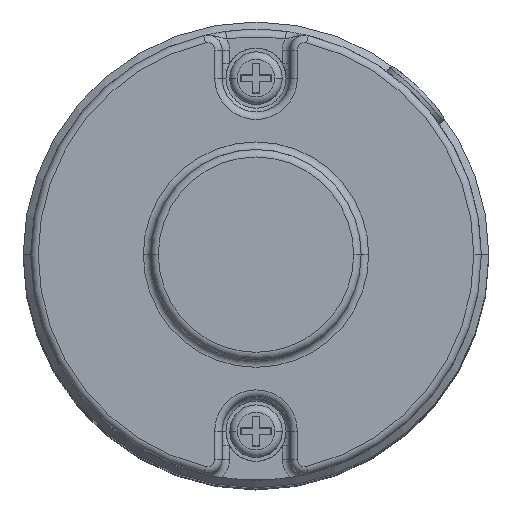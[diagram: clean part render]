
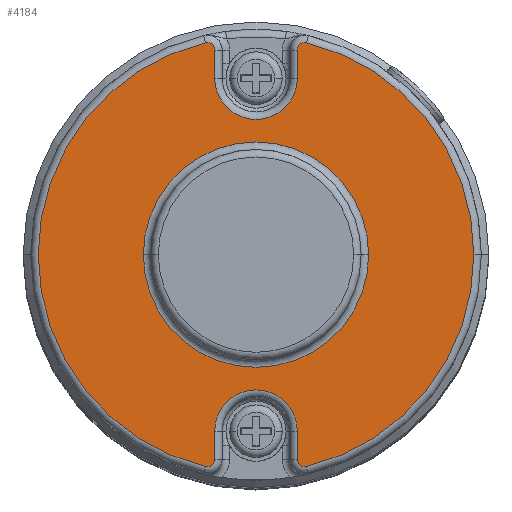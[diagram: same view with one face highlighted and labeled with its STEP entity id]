
A CAD part, top view. The second image highlights one B-rep face of the part: STEP entity #4184.
In plain terms, the highlighted planar face has unit normal (0, 0, 1).
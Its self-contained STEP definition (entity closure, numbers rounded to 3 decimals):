
#119 = CARTESIAN_POINT ( 'NONE',  ( 5.5, 23.5, 20.5 ) ) ;
#152 = EDGE_CURVE ( 'NONE', #6449, #7680, #8257, .T. ) ;
#169 = EDGE_LOOP ( 'NONE', ( #1189, #7729, #7235, #7921, #1282, #2745, #3732, #760, #5110, #5448, #1993, #4209, #1872 ) ) ;
#348 = LINE ( 'NONE', #4132, #3317 ) ;
#352 = DIRECTION ( 'NONE',  ( 1., 0., 0. ) ) ;
#553 = DIRECTION ( 'NONE',  ( 1., 0., 0. ) ) ;
#760 = ORIENTED_EDGE ( 'NONE', *, *, #7634, .T. ) ;
#911 = VERTEX_POINT ( 'NONE', #5743 ) ;
#916 = DIRECTION ( 'NONE',  ( 1., 0., 0. ) ) ;
#935 = VECTOR ( 'NONE', #2852, 1000. ) ;
#984 = DIRECTION ( 'NONE',  ( 1., 0., 0. ) ) ;
#1007 = EDGE_CURVE ( 'NONE', #7680, #6813, #4406, .T. ) ;
#1041 = CARTESIAN_POINT ( 'NONE',  ( 0., 23.5, 20.5 ) ) ;
#1066 = AXIS2_PLACEMENT_3D ( 'NONE', #2922, #4932, #352 ) ;
#1070 = EDGE_CURVE ( 'NONE', #7441, #5652, #7627, .T. ) ;
#1137 = VERTEX_POINT ( 'NONE', #3353 ) ;
#1163 = CARTESIAN_POINT ( 'NONE',  ( 6.732, 28.208, 20.5 ) ) ;
#1189 = ORIENTED_EDGE ( 'NONE', *, *, #1686, .T. ) ;
#1226 = CIRCLE ( 'NONE', #3629, 29. ) ;
#1235 = CARTESIAN_POINT ( 'NONE',  ( 0., 0., 20.5 ) ) ;
#1282 = ORIENTED_EDGE ( 'NONE', *, *, #152, .T. ) ;
#1424 = DIRECTION ( 'NONE',  ( 1., 0., 0. ) ) ;
#1549 = VERTEX_POINT ( 'NONE', #4294 ) ;
#1598 = VERTEX_POINT ( 'NONE', #6828 ) ;
#1654 = CIRCLE ( 'NONE', #2586, 5.5 ) ;
#1686 = EDGE_CURVE ( 'NONE', #1700, #8338, #8207, .T. ) ;
#1700 = VERTEX_POINT ( 'NONE', #6902 ) ;
#1718 = DIRECTION ( 'NONE',  ( 0., 0., -1. ) ) ;
#1726 = DIRECTION ( 'NONE',  ( 0., -1., 0. ) ) ;
#1872 = ORIENTED_EDGE ( 'NONE', *, *, #7222, .T. ) ;
#1993 = ORIENTED_EDGE ( 'NONE', *, *, #5206, .T. ) ;
#2007 = AXIS2_PLACEMENT_3D ( 'NONE', #1235, #3822, #6271 ) ;
#2019 = EDGE_CURVE ( 'NONE', #5189, #1137, #7312, .T. ) ;
#2037 = AXIS2_PLACEMENT_3D ( 'NONE', #1041, #1718, #6891 ) ;
#2191 = VERTEX_POINT ( 'NONE', #7438 ) ;
#2295 = DIRECTION ( 'NONE',  ( 0., 0., 1. ) ) ;
#2315 = FACE_BOUND ( 'NONE', #7333, .T. ) ;
#2586 = AXIS2_PLACEMENT_3D ( 'NONE', #6763, #4725, #916 ) ;
#2633 = EDGE_CURVE ( 'NONE', #911, #4073, #4002, .T. ) ;
#2745 = ORIENTED_EDGE ( 'NONE', *, *, #1007, .T. ) ;
#2746 = CARTESIAN_POINT ( 'NONE',  ( 29., 0., 20.5 ) ) ;
#2766 = VERTEX_POINT ( 'NONE', #4622 ) ;
#2852 = DIRECTION ( 'NONE',  ( 0., 1., 0. ) ) ;
#2886 = DIRECTION ( 'NONE',  ( 0., 0., 1. ) ) ;
#2922 = CARTESIAN_POINT ( 'NONE',  ( 0., 0., 20.5 ) ) ;
#2968 = CIRCLE ( 'NONE', #7671, 29. ) ;
#2983 = CIRCLE ( 'NONE', #7284, 1. ) ;
#3033 = DIRECTION ( 'NONE',  ( 0., 0., 1. ) ) ;
#3101 = EDGE_CURVE ( 'NONE', #5652, #7441, #3486, .T. ) ;
#3112 = AXIS2_PLACEMENT_3D ( 'NONE', #7662, #3033, #553 ) ;
#3317 = VECTOR ( 'NONE', #5389, 1000. ) ;
#3353 = CARTESIAN_POINT ( 'NONE',  ( -5.5, -23.5, 20.5 ) ) ;
#3486 = CIRCLE ( 'NONE', #2007, 15. ) ;
#3495 = AXIS2_PLACEMENT_3D ( 'NONE', #8093, #3568, #6135 ) ;
#3512 = CARTESIAN_POINT ( 'NONE',  ( 6.5, 27.235, 20.5 ) ) ;
#3568 = DIRECTION ( 'NONE',  ( 0., 0., 1. ) ) ;
#3629 = AXIS2_PLACEMENT_3D ( 'NONE', #6741, #8012, #4913 ) ;
#3732 = ORIENTED_EDGE ( 'NONE', *, *, #5471, .T. ) ;
#3738 = CARTESIAN_POINT ( 'NONE',  ( -5.5, -27.235, 20.5 ) ) ;
#3814 = CARTESIAN_POINT ( 'NONE',  ( 5.5, 23.5, 20.5 ) ) ;
#3822 = DIRECTION ( 'NONE',  ( 0., 0., -1. ) ) ;
#3855 = CARTESIAN_POINT ( 'NONE',  ( 5.5, -27.235, 20.5 ) ) ;
#3882 = CARTESIAN_POINT ( 'NONE',  ( -15., 0., 20.5 ) ) ;
#4002 = CIRCLE ( 'NONE', #1066, 29. ) ;
#4073 = VERTEX_POINT ( 'NONE', #2746 ) ;
#4132 = CARTESIAN_POINT ( 'NONE',  ( -5.5, 27.235, 20.5 ) ) ;
#4144 = CARTESIAN_POINT ( 'NONE',  ( -5.5, -23.5, 20.5 ) ) ;
#4164 = CARTESIAN_POINT ( 'NONE',  ( -6.5, 27.235, 20.5 ) ) ;
#4184 = ADVANCED_FACE ( 'NONE', ( #5548, #2315 ), #7365, .T. ) ;
#4209 = ORIENTED_EDGE ( 'NONE', *, *, #2019, .T. ) ;
#4225 = EDGE_CURVE ( 'NONE', #4073, #6449, #1226, .T. ) ;
#4271 = EDGE_CURVE ( 'NONE', #2191, #1549, #2968, .T. ) ;
#4294 = CARTESIAN_POINT ( 'NONE',  ( -6.732, -28.208, 20.5 ) ) ;
#4317 = CIRCLE ( 'NONE', #3112, 1. ) ;
#4332 = CIRCLE ( 'NONE', #7705, 1. ) ;
#4373 = ORIENTED_EDGE ( 'NONE', *, *, #1070, .T. ) ;
#4406 = LINE ( 'NONE', #3814, #6818 ) ;
#4597 = AXIS2_PLACEMENT_3D ( 'NONE', #3512, #2886, #7387 ) ;
#4622 = CARTESIAN_POINT ( 'NONE',  ( -5.5, 27.235, 20.5 ) ) ;
#4690 = CARTESIAN_POINT ( 'NONE',  ( 0., 0., 20.5 ) ) ;
#4725 = DIRECTION ( 'NONE',  ( 0., 0., -1. ) ) ;
#4913 = DIRECTION ( 'NONE',  ( 1., 0., 0. ) ) ;
#4932 = DIRECTION ( 'NONE',  ( 0., 0., 1. ) ) ;
#5110 = ORIENTED_EDGE ( 'NONE', *, *, #5145, .T. ) ;
#5145 = EDGE_CURVE ( 'NONE', #2766, #2191, #2983, .T. ) ;
#5189 = VERTEX_POINT ( 'NONE', #3738 ) ;
#5206 = EDGE_CURVE ( 'NONE', #1549, #5189, #4317, .T. ) ;
#5270 = DIRECTION ( 'NONE',  ( 1., 0., 0. ) ) ;
#5389 = DIRECTION ( 'NONE',  ( 0., 1., 0. ) ) ;
#5426 = DIRECTION ( 'NONE',  ( 0., 0., 1. ) ) ;
#5448 = ORIENTED_EDGE ( 'NONE', *, *, #4271, .T. ) ;
#5471 = EDGE_CURVE ( 'NONE', #6813, #1598, #6068, .T. ) ;
#5548 = FACE_OUTER_BOUND ( 'NONE', #169, .T. ) ;
#5652 = VERTEX_POINT ( 'NONE', #3882 ) ;
#5708 = ORIENTED_EDGE ( 'NONE', *, *, #3101, .T. ) ;
#5743 = CARTESIAN_POINT ( 'NONE',  ( 6.732, -28.208, 20.5 ) ) ;
#5985 = CARTESIAN_POINT ( 'NONE',  ( 5.5, 27.235, 20.5 ) ) ;
#6046 = CARTESIAN_POINT ( 'NONE',  ( 0., 0., 20.5 ) ) ;
#6068 = CIRCLE ( 'NONE', #2037, 5.5 ) ;
#6135 = DIRECTION ( 'NONE',  ( 1., 0., 0. ) ) ;
#6223 = CARTESIAN_POINT ( 'NONE',  ( 5.5, -27.235, 20.5 ) ) ;
#6234 = EDGE_CURVE ( 'NONE', #8338, #911, #4332, .T. ) ;
#6271 = DIRECTION ( 'NONE',  ( 1., 0., 0. ) ) ;
#6449 = VERTEX_POINT ( 'NONE', #1163 ) ;
#6636 = DIRECTION ( 'NONE',  ( 1., 0., 0. ) ) ;
#6741 = CARTESIAN_POINT ( 'NONE',  ( 0., 0., 20.5 ) ) ;
#6762 = CARTESIAN_POINT ( 'NONE',  ( 6.5, -27.235, 20.5 ) ) ;
#6763 = CARTESIAN_POINT ( 'NONE',  ( 0., -23.5, 20.5 ) ) ;
#6813 = VERTEX_POINT ( 'NONE', #119 ) ;
#6818 = VECTOR ( 'NONE', #7070, 1000. ) ;
#6828 = CARTESIAN_POINT ( 'NONE',  ( -5.5, 23.5, 20.5 ) ) ;
#6891 = DIRECTION ( 'NONE',  ( 1., 0., 0. ) ) ;
#6902 = CARTESIAN_POINT ( 'NONE',  ( 5.5, -23.5, 20.5 ) ) ;
#7070 = DIRECTION ( 'NONE',  ( 0., -1., 0. ) ) ;
#7101 = VECTOR ( 'NONE', #1726, 1000. ) ;
#7222 = EDGE_CURVE ( 'NONE', #1137, #1700, #1654, .T. ) ;
#7235 = ORIENTED_EDGE ( 'NONE', *, *, #2633, .T. ) ;
#7265 = DIRECTION ( 'NONE',  ( 0., 0., 1. ) ) ;
#7284 = AXIS2_PLACEMENT_3D ( 'NONE', #4164, #5426, #984 ) ;
#7312 = LINE ( 'NONE', #4144, #935 ) ;
#7333 = EDGE_LOOP ( 'NONE', ( #4373, #5708 ) ) ;
#7365 = PLANE ( 'NONE',  #3495 ) ;
#7387 = DIRECTION ( 'NONE',  ( 1., 0., 0. ) ) ;
#7438 = CARTESIAN_POINT ( 'NONE',  ( -6.732, 28.208, 20.5 ) ) ;
#7441 = VERTEX_POINT ( 'NONE', #7475 ) ;
#7475 = CARTESIAN_POINT ( 'NONE',  ( 15., 0., 20.5 ) ) ;
#7627 = CIRCLE ( 'NONE', #8308, 15. ) ;
#7634 = EDGE_CURVE ( 'NONE', #1598, #2766, #348, .T. ) ;
#7662 = CARTESIAN_POINT ( 'NONE',  ( -6.5, -27.235, 20.5 ) ) ;
#7671 = AXIS2_PLACEMENT_3D ( 'NONE', #6046, #7265, #5270 ) ;
#7680 = VERTEX_POINT ( 'NONE', #5985 ) ;
#7705 = AXIS2_PLACEMENT_3D ( 'NONE', #6762, #2295, #6636 ) ;
#7729 = ORIENTED_EDGE ( 'NONE', *, *, #6234, .T. ) ;
#7824 = DIRECTION ( 'NONE',  ( 0., 0., -1. ) ) ;
#7921 = ORIENTED_EDGE ( 'NONE', *, *, #4225, .T. ) ;
#8012 = DIRECTION ( 'NONE',  ( 0., 0., 1. ) ) ;
#8093 = CARTESIAN_POINT ( 'NONE',  ( 0., 0., 20.5 ) ) ;
#8207 = LINE ( 'NONE', #6223, #7101 ) ;
#8257 = CIRCLE ( 'NONE', #4597, 1. ) ;
#8308 = AXIS2_PLACEMENT_3D ( 'NONE', #4690, #7824, #1424 ) ;
#8338 = VERTEX_POINT ( 'NONE', #3855 ) ;
